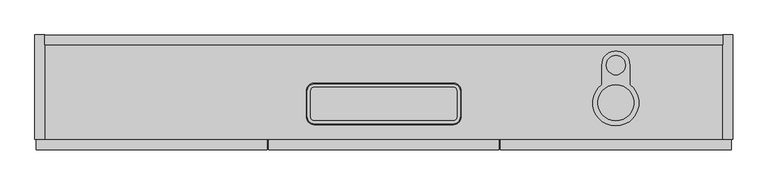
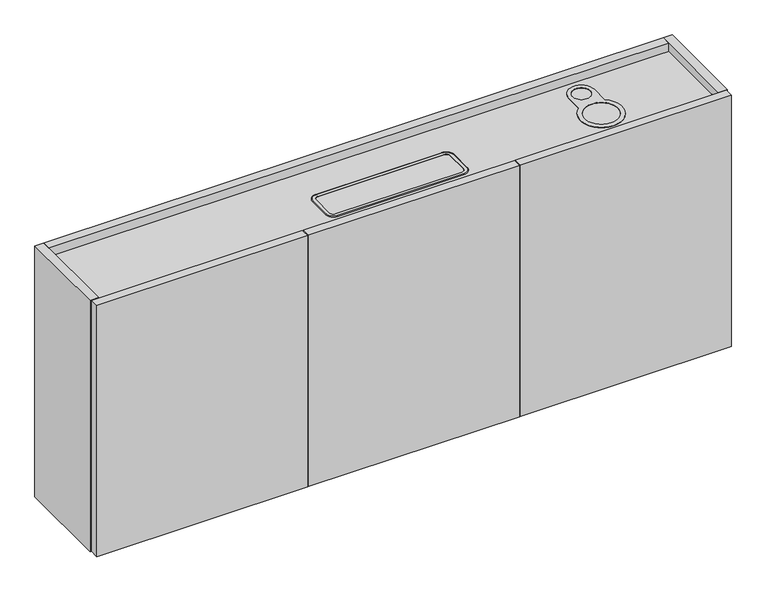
"""IFC4 building model written with IfcOpenShell, lengths in millimetres: furniture geometry, Geiger_GeigerOneCasegoods_UtilityCabinetForUseWithCredenzaDeskAccepts1Leg : TFL Case 54Wx 8.875Dx 22.5H."""

from ifc_helpers import new_model, si_unit, point, frame, origin, place, context, project, spatial, polyline, circle_curve, ellipse_curve, trimmed, outline, extrude, faceted_brep, source, transform, mapped, element, save
from ifc_brep_helpers import plane_surface, cylinder_surface, revolved_surface, advanced_brep


def furniture_5a98c0b4(model_context):
    return source(origin(), model_context, "Body", "SolidModel", [
        faceted_brep([(1352.6, -19.5, 584.2), (1352.6, -19.5, 29.0), (1352.6, -0.5, 29.0), (1352.6, -0.5, 584.2), (1352.6, -204.925, 156.0), (1352.6, -204.925, 29.0), (1352.6, -185.925, 29.0), (1352.6, -185.925, 156.0), (19.0, -19.5, 584.2), (19.0, -0.5, 584.2), (19.0, -0.5, 29.0), (19.0, -19.5, 29.0), (19.0, -204.925, 156.0), (19.0, -185.925, 156.0), (19.0, -185.925, 29.0), (19.0, -204.925, 29.0), (448.0, -19.5, 29.0), (448.0, -19.5, 546.2), (467.0, -19.5, 546.2), (467.0, -19.5, 29.0), (448.0, -185.925, 29.0), (448.0, -204.5, 29.0), (467.0, -204.5, 29.0), (467.0, -185.925, 29.0), (467.0, -185.925, 156.0), (448.0, -185.925, 156.0), (467.0, -204.5, 156.0), (448.0, -204.5, 156.0), (448.0, -204.5, 546.2), (448.0, -19.5, 12.7), (448.0, -204.5, 12.7), (467.0, -204.5, 12.7), (467.0, -19.5, 12.7), (467.0, -204.5, 546.2)], [[[0, 1, 2, 3]], [[4, 5, 6, 7]], [[8, 9, 10, 11]], [[12, 13, 14, 15]], [[1, 0, 8, 11, 16, 17, 18, 19]], [[2, 1, 19, 16, 11, 10]], [[3, 2, 10, 9]], [[0, 3, 9, 8]], [[5, 4, 12, 15]], [[6, 5, 15, 14, 20, 21, 22, 23]], [[7, 6, 23, 24]], [[14, 13, 25, 20]], [[4, 7, 24, 26, 27, 25, 13, 12]], [[28, 17, 16, 29, 30, 21, 20, 25, 27]], [[31, 32, 19, 18, 33, 26, 24, 23, 22]], [[30, 31, 22, 21]], [[33, 28, 27, 26]], [[17, 28, 33, 18]], [[32, 29, 16, 19]], [[30, 29, 32, 31]]]),
        extrude(outline(polyline([(1352.6, -19.5), (1352.6, -205.425), (19.0, -205.425), (19.0, -19.5), (1352.6, -19.5)])), frame((0.0, 0.0, 546.2), z_axis=(0.0, 0.0, 1.0), x_axis=(1.0, 0.0, 0.0)), (0.0, 0.0, 1.0), 19.0),
        extrude(outline(polyline([(456.2, -225.425), (3.0, -225.425), (3.0, -206.425), (456.2, -206.425), (456.2, -225.425)])), frame((0.0, 0.0, 12.7), z_axis=(0.0, 0.0, 1.0), x_axis=(1.0, 0.0, 0.0)), (0.0, 0.0, 1.0), 571.5),
        extrude(outline(polyline([(1368.6, -225.425), (915.4, -225.425), (915.4, -206.425), (1368.6, -206.425), (1368.6, -225.425)])), frame((0.0, 0.0, 12.7), z_axis=(0.0, 0.0, 1.0), x_axis=(1.0, 0.0, 0.0)), (0.0, 0.0, 1.0), 571.5),
        extrude(outline(polyline([(912.4, -225.425), (459.2, -225.425), (459.2, -206.425), (912.4, -206.425), (912.4, -225.425)])), frame((0.0, 0.0, 12.7), z_axis=(0.0, 0.0, 1.0), x_axis=(1.0, 0.0, 0.0)), (0.0, 0.0, 1.0), 571.5),
        extrude(outline(polyline([(19.0, -205.425), (0.0, -205.425), (0.0, 0.0), (19.0, 0.0), (19.0, -205.425)])), frame((0.0, 0.0, 12.7), z_axis=(0.0, 0.0, 1.0), x_axis=(1.0, 0.0, 0.0)), (0.0, 0.0, 1.0), 571.5),
        extrude(outline(polyline([(1371.6, -205.425), (1352.6, -205.425), (1352.6, 0.0), (1371.6, 0.0), (1371.6, -205.425)])), frame((0.0, 0.0, 12.7), z_axis=(0.0, 0.0, 1.0), x_axis=(1.0, 0.0, 0.0)), (0.0, 0.0, 1.0), 571.5),
        advanced_brep(
        [(534.5203563, -110.825, 566.7), (549.7, -95.6453563, 566.7), (549.7, -94.4172964, 565.2), (533.2922964, -110.825, 565.2), (533.2922964, -160.025, 565.2), (534.5203563, -160.025, 566.7), (549.7, -176.4327036, 565.2), (549.7, -175.2046437, 566.7), (821.9, -176.4327036, 565.2), (821.9, -175.2046437, 566.7), (838.3077036, -160.025, 565.2), (837.0796437, -160.025, 566.7), (838.3077036, -110.825, 565.2), (837.0796437, -110.825, 566.7), (821.9, -94.4172964, 565.2), (821.9, -95.6453563, 566.7), (549.7, -102.925, 566.7), (821.9, -102.925, 566.7), (829.8, -110.825, 566.7), (829.8, -160.025, 566.7), (821.9, -167.925, 566.7), (549.7, -167.925, 566.7), (541.8, -160.025, 566.7), (541.8, -110.825, 566.7), (541.8, -110.825, 566.001635), (549.7, -102.925, 566.001635), (541.8, -160.025, 566.001635), (549.7, -167.925, 566.001635), (821.9, -167.925, 566.001635), (829.8, -160.025, 566.001635), (829.8, -110.825, 566.001635), (821.9, -102.925, 566.001635)],
        [
            (0, 1, circle_curve(frame((549.7, -110.825, 566.7), z_axis=(0.0, 0.0, -1.0), x_axis=(0.0, 1.0, 0.0)), 15.1796437)),
            (1, 2, circle_curve(frame((549.7, -95.6453563, 565.4472896), z_axis=(-1.0, 0.0, 0.0), x_axis=(0.0, -1.0, 0.0)), 1.2527104)),
            (2, 3, circle_curve(frame((549.7, -110.825, 565.2), z_axis=(0.0, 0.0, 1.0), x_axis=(0.0, 1.0, 0.0)), 16.4077036)),
            (3, 0, circle_curve(frame((534.5203563, -110.825, 565.4472896), z_axis=(0.0, 1.0, 0.0), x_axis=(1.0, 0.0, 0.0)), 1.2527104)),
            (3, 4),
            (4, 5, circle_curve(frame((534.5203563, -160.025, 565.4472896), z_axis=(0.0, 1.0, 0.0), x_axis=(1.0, 0.0, 0.0)), 1.2527104)),
            (5, 0),
            (4, 6, circle_curve(frame((549.7, -160.025, 565.2), z_axis=(0.0, 0.0, 1.0), x_axis=(-1.0, 0.0, 0.0)), 16.4077036)),
            (6, 7, circle_curve(frame((549.7, -175.2046437, 565.4472896), z_axis=(-1.0, 0.0, 0.0), x_axis=(0.0, 1.0, 0.0)), 1.2527104)),
            (7, 5, circle_curve(frame((549.7, -160.025, 566.7), z_axis=(0.0, 0.0, -1.0), x_axis=(-1.0, 0.0, 0.0)), 15.1796437)),
            (6, 8),
            (8, 9, circle_curve(frame((821.9, -175.2046437, 565.4472896), z_axis=(-1.0, 0.0, 0.0), x_axis=(0.0, 1.0, 0.0)), 1.2527104)),
            (9, 7),
            (8, 10, circle_curve(frame((821.9, -160.025, 565.2), z_axis=(0.0, 0.0, 1.0), x_axis=(0.0, -1.0, 0.0)), 16.4077036)),
            (10, 11, circle_curve(frame((837.0796437, -160.025, 565.4472896), z_axis=(0.0, -1.0, 0.0), x_axis=(-1.0, 0.0, 0.0)), 1.2527104)),
            (11, 9, circle_curve(frame((821.9, -160.025, 566.7), z_axis=(0.0, 0.0, -1.0), x_axis=(0.0, -1.0, 0.0)), 15.1796437)),
            (10, 12),
            (12, 13, circle_curve(frame((837.0796437, -110.825, 565.4472896), z_axis=(0.0, -1.0, 0.0), x_axis=(-1.0, 0.0, 0.0)), 1.2527104)),
            (13, 11),
            (12, 14, circle_curve(frame((821.9, -110.825, 565.2), z_axis=(0.0, 0.0, 1.0), x_axis=(1.0, 0.0, 0.0)), 16.4077036)),
            (14, 15, circle_curve(frame((821.9, -95.6453563, 565.4472896), z_axis=(1.0, 0.0, 0.0), x_axis=(0.0, -1.0, 0.0)), 1.2527104)),
            (15, 13, circle_curve(frame((821.9, -110.825, 566.7), z_axis=(0.0, 0.0, -1.0), x_axis=(1.0, 0.0, 0.0)), 15.1796437)),
            (1, 15),
            (14, 2),
            (16, 17),
            (17, 18, circle_curve(frame((821.9, -110.825, 566.7), z_axis=(0.0, 0.0, -1.0), x_axis=(1.0, 0.0, 0.0)), 7.9)),
            (18, 19),
            (19, 20, circle_curve(frame((821.9, -160.025, 566.7), z_axis=(0.0, 0.0, -1.0), x_axis=(0.0, -1.0, 0.0)), 7.9)),
            (20, 21),
            (21, 22, circle_curve(frame((549.7, -160.025, 566.7), z_axis=(0.0, 0.0, -1.0), x_axis=(-1.0, 0.0, 0.0)), 7.9)),
            (22, 23),
            (23, 16, circle_curve(frame((549.7, -110.825, 566.7), z_axis=(0.0, 0.0, -1.0), x_axis=(0.0, 1.0, 0.0)), 7.9)),
            (23, 24),
            (24, 25, circle_curve(frame((549.7, -110.825, 566.001635), z_axis=(0.0, 0.0, -1.0), x_axis=(0.0, 1.0, 0.0)), 7.9)),
            (25, 16),
            (22, 26),
            (26, 24),
            (21, 27),
            (27, 26, circle_curve(frame((549.7, -160.025, 566.001635), z_axis=(0.0, 0.0, -1.0), x_axis=(-1.0, 0.0, 0.0)), 7.9)),
            (20, 28),
            (28, 27),
            (19, 29),
            (29, 28, circle_curve(frame((821.9, -160.025, 566.001635), z_axis=(0.0, 0.0, -1.0), x_axis=(0.0, -1.0, 0.0)), 7.9)),
            (18, 30),
            (30, 29),
            (17, 31),
            (31, 30, circle_curve(frame((821.9, -110.825, 566.001635), z_axis=(0.0, 0.0, -1.0), x_axis=(1.0, 0.0, 0.0)), 7.9)),
            (25, 31),
        ],
        [
            revolved_surface(trimmed(ellipse_curve(frame((549.7, -95.6453563, 565.4472896), z_axis=(1.0, 0.0, 0.0), x_axis=(0.0, -1.0, 0.0)), 1.2527104, 1.2527104), [point((549.7, -94.4172964, 565.2))], [point((549.7, -95.6453563, 566.7))], True, "CARTESIAN"), (549.7, -110.825, 565.2), (0.0, 0.0, 1.0)),
            cylinder_surface(frame((534.5203563, -110.825, 565.4472896), z_axis=(0.0, 1.0, 0.0), x_axis=(1.0, 0.0, 0.0)), 1.2527104),
            revolved_surface(trimmed(ellipse_curve(frame((534.5203563, -160.025, 565.4472896), z_axis=(0.0, 1.0, 0.0), x_axis=(1.0, 0.0, 0.0)), 1.2527104, 1.2527104), [point((533.2922964, -160.025, 565.2))], [point((534.5203563, -160.025, 566.7))], True, "CARTESIAN"), (549.7, -160.025, 565.2), (0.0, 0.0, 1.0)),
            cylinder_surface(frame((549.7, -175.2046437, 565.4472896), z_axis=(-1.0, 0.0, 0.0), x_axis=(0.0, 1.0, 0.0)), 1.2527104),
            revolved_surface(trimmed(ellipse_curve(frame((821.9, -175.2046437, 565.4472896), z_axis=(-1.0, 0.0, 0.0), x_axis=(0.0, 1.0, 0.0)), 1.2527104, 1.2527104), [point((821.9, -176.4327036, 565.2))], [point((821.9, -175.2046437, 566.7))], True, "CARTESIAN"), (821.9, -160.025, 565.2), (0.0, 0.0, 1.0)),
            cylinder_surface(frame((837.0796437, -160.025, 565.4472896), z_axis=(0.0, -1.0, 0.0), x_axis=(-1.0, 0.0, 0.0)), 1.2527104),
            revolved_surface(trimmed(ellipse_curve(frame((837.0796437, -110.825, 565.4472896), z_axis=(0.0, -1.0, 0.0), x_axis=(-1.0, 0.0, 0.0)), 1.2527104, 1.2527104), [point((838.3077036, -110.825, 565.2))], [point((837.0796437, -110.825, 566.7))], True, "CARTESIAN"), (821.9, -110.825, 565.2), (0.0, 0.0, 1.0)),
            cylinder_surface(frame((821.9, -95.6453563, 565.4472896), z_axis=(1.0, 0.0, 0.0), x_axis=(0.0, -1.0, 0.0)), 1.2527104),
            plane_surface(frame((821.9, -95.6453563, 566.7), z_axis=(0.0, 0.0, 1.0), x_axis=(-1.0, 0.0, 0.0))),
            revolved_surface(polyline([(549.7, -102.925, 566.7), (549.7, -102.925, 566.001635)]), (549.7, -110.825, 565.2), (0.0, 0.0, 1.0)),
            plane_surface(frame((541.8, -110.825, 566.7), z_axis=(1.0, 0.0, 0.0), x_axis=(0.0, -1.0, 0.0))),
            revolved_surface(polyline([(541.8000000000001, -160.025, 566.7), (541.8000000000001, -160.025, 566.001635)]), (549.7, -160.025, 565.2), (0.0, 0.0, 1.0)),
            plane_surface(frame((549.7, -167.925, 566.7), z_axis=(0.0, 1.0, 0.0), x_axis=(1.0, 0.0, 0.0))),
            revolved_surface(polyline([(821.9, -167.925, 566.7), (821.9, -167.925, 566.001635)]), (821.9, -160.025, 565.2), (0.0, 0.0, 1.0)),
            plane_surface(frame((829.8, -160.025, 566.7), z_axis=(-1.0, 0.0, 0.0), x_axis=(0.0, 1.0, 0.0))),
            revolved_surface(polyline([(829.8, -110.825, 566.7), (829.8, -110.825, 566.001635)]), (821.9, -110.825, 565.2), (0.0, 0.0, 1.0)),
            plane_surface(frame((821.9, -102.925, 566.7), z_axis=(0.0, -1.0, 0.0), x_axis=(-1.0, 0.0, 0.0))),
            plane_surface(frame((821.9, -102.925, 565.2), z_axis=(0.0, 0.0, -1.0), x_axis=(-1.0, 0.0, 0.0))),
            plane_surface(frame((549.7, -102.925, 566.001635), z_axis=(0.0, 0.0, 1.0), x_axis=(-1.0, 0.0, 0.0))),
        ],
        [
            (0, [[1, 2, 3, 4]]),
            (1, [[-4, 5, 6, 7]]),
            (2, [[-6, 8, 9, 10]]),
            (3, [[-9, 11, 12, 13]]),
            (4, [[-12, 14, 15, 16]]),
            (5, [[-15, 17, 18, 19]]),
            (6, [[-18, 20, 21, 22]]),
            (7, [[-2, 23, -21, 24]]),
            (8, [[-1, -7, -10, -13, -16, -19, -22, -23], [25, 26, 27, 28, 29, 30, 31, 32]]),
            (9, [[-32, 33, 34, 35]]),
            (10, [[-31, 36, 37, -33]]),
            (11, [[-30, 38, 39, -36]]),
            (12, [[-29, 40, 41, -38]]),
            (13, [[-28, 42, 43, -40]]),
            (14, [[-27, 44, 45, -42]]),
            (15, [[-26, 46, 47, -44]]),
            (16, [[-25, -35, 48, -46]]),
            (17, [[-3, -24, -20, -17, -14, -11, -8, -5]]),
            (18, [[-34, -37, -39, -41, -43, -45, -47, -48]]),
        ],
    ),
        advanced_brep(
        [(1114.5, -97.7340661, 565.2), (1114.5, -59.2643843, 565.2), (1169.5, -59.2643843, 565.2), (1169.5, -97.7340661, 565.2), (1114.5, -97.7340661, 566.8), (1169.5, -97.7340661, 566.8), (1169.5, -59.2643843, 566.8), (1114.5, -59.2643843, 566.8), (1142.0, -40.3330294, 566.8), (1142.0, -78.1957393, 566.8), (1142.0, -98.0446387, 566.8), (1142.0, -168.9040899, 566.8), (1142.0, -78.1957393, 566.1909845), (1142.0, -40.3330294, 566.1909845), (1142.0, -168.9040899, 566.1909845), (1142.0, -98.0446387, 566.1909845)],
        [
            (0, 1),
            (1, 2, circle_curve(frame((1142.0, -59.2643843, 565.2), z_axis=(0.0, 0.0, -1.0), x_axis=(0.0, -1.0, 0.0)), 27.5)),
            (2, 3),
            (3, 0, circle_curve(frame((1142.0, -133.4743643, 565.2), z_axis=(0.0, 0.0, -1.0), x_axis=(0.0, -1.0, 0.0)), 45.095664)),
            (4, 5, circle_curve(frame((1142.0, -133.4743643, 566.8), z_axis=(0.0, 0.0, 1.0), x_axis=(0.0, -1.0, 0.0)), 45.095664)),
            (5, 6),
            (6, 7, circle_curve(frame((1142.0, -59.2643843, 566.8), z_axis=(0.0, 0.0, 1.0), x_axis=(0.0, -1.0, 0.0)), 27.5)),
            (7, 4),
            (8, 9, circle_curve(frame((1142.0, -59.2643843, 566.8), z_axis=(0.0, 0.0, -1.0), x_axis=(0.0, -1.0, 0.0)), 18.931355)),
            (9, 8, circle_curve(frame((1142.0, -59.2643843, 566.8), z_axis=(0.0, 0.0, -1.0), x_axis=(0.0, -1.0, 0.0)), 18.931355)),
            (10, 11, circle_curve(frame((1142.0, -133.4743643, 566.8), z_axis=(0.0, 0.0, -1.0), x_axis=(0.0, -1.0, 0.0)), 35.4297256)),
            (11, 10, circle_curve(frame((1142.0, -133.4743643, 566.8), z_axis=(0.0, 0.0, -1.0), x_axis=(0.0, -1.0, 0.0)), 35.4297256)),
            (0, 4),
            (7, 1),
            (6, 2),
            (5, 3),
            (9, 12),
            (12, 13, circle_curve(frame((1142.0, -59.2643843, 566.1909845), z_axis=(0.0, 0.0, -1.0), x_axis=(0.0, -1.0, 0.0)), 18.931355)),
            (13, 8),
            (13, 12, circle_curve(frame((1142.0, -59.2643843, 566.1909845), z_axis=(0.0, 0.0, -1.0), x_axis=(0.0, -1.0, 0.0)), 18.931355)),
            (11, 14),
            (14, 15, circle_curve(frame((1142.0, -133.4743643, 566.1909845), z_axis=(0.0, 0.0, -1.0), x_axis=(0.0, -1.0, 0.0)), 35.4297256)),
            (15, 10),
            (15, 14, circle_curve(frame((1142.0, -133.4743643, 566.1909845), z_axis=(0.0, 0.0, -1.0), x_axis=(0.0, -1.0, 0.0)), 35.4297256)),
        ],
        [
            plane_surface(frame((1142.0, -185.925, 565.2), z_axis=(0.0, 0.0, -1.0), x_axis=(1.0, 0.0, 0.0))),
            plane_surface(frame((1142.0, -185.925, 566.8), z_axis=(0.0, 0.0, 1.0), x_axis=(1.0, 0.0, 0.0))),
            plane_surface(frame((1114.5, -97.7340661, 565.2), z_axis=(-1.0, 0.0, 0.0), x_axis=(0.0, 0.0, 1.0))),
            cylinder_surface(frame((1142.0, -59.2643843, 565.2), z_axis=(0.0, 0.0, -1.0), x_axis=(0.0, -1.0, 0.0)), 27.5),
            plane_surface(frame((1169.5, -59.2643843, 565.2), z_axis=(1.0, 0.0, 0.0), x_axis=(0.0, 0.0, 1.0))),
            cylinder_surface(frame((1142.0, -133.4743643, 565.2), z_axis=(0.0, 0.0, -1.0), x_axis=(0.0, -1.0, 0.0)), 45.095664),
            revolved_surface(polyline([(1142.0, -78.1957393, 566.8), (1142.0, -78.1957393, 566.1909845)]), (1142.0, -59.2643843, 565.2), (0.0, 0.0, 1.0)),
            revolved_surface(polyline([(1142.0, -168.90408989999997, 566.8), (1142.0, -168.90408989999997, 566.1909845)]), (1142.0, -133.4743643, 565.2), (0.0, 0.0, 1.0)),
            plane_surface(frame((1123.068645, -59.2643843, 566.1909845), z_axis=(0.0, 0.0, 1.0), x_axis=(0.0, -1.0, 0.0))),
        ],
        [
            (0, [[1, 2, 3, 4]]),
            (1, [[5, 6, 7, 8], [9, 10], [11, 12]]),
            (2, [[-1, 13, -8, 14]]),
            (3, [[-2, -14, -7, 15]]),
            (4, [[-3, -15, -6, 16]]),
            (5, [[-4, -16, -5, -13]]),
            (6, [[-10, 17, 18, 19]]),
            (6, [[-9, -19, 20, -17]]),
            (7, [[-12, 21, 22, 23]]),
            (7, [[-11, -23, 24, -21]]),
            (8, [[-18, -20]]),
            (8, [[-22, -24]]),
        ],
    ),
    ])


if __name__ == "__main__":
    model = new_model("IFC4")
    model_context = context("Model", 3, world=origin())
    ifc_project = project(units=[si_unit("LENGTHUNIT", "METRE", prefix="MILLI")], contexts=[model_context])
    site = spatial("IfcSite", under=ifc_project)
    building = spatial("IfcBuilding", under=site)
    placement = place(None, origin())
    furniture_shape = furniture_5a98c0b4(model_context)
    element("IfcFurniture", 1, ObjectType="Geiger_GeigerOneCasegoods_UtilityCabinetForUseWithCredenzaDeskAccepts1Leg : TFL Case 54Wx 8.875Dx 22.5H", at=placement, inside=building, context=model_context, shape_type="MappedRepresentation", body=[
        mapped(furniture_shape, transform((0.0, 0.0, 0.0), x_axis=(1.0, 0.0, 0.0), y_axis=(0.0, 1.0, 0.0), z_axis=(0.0, 0.0, 1.0))),
    ])
    save(model, "model.ifc")
